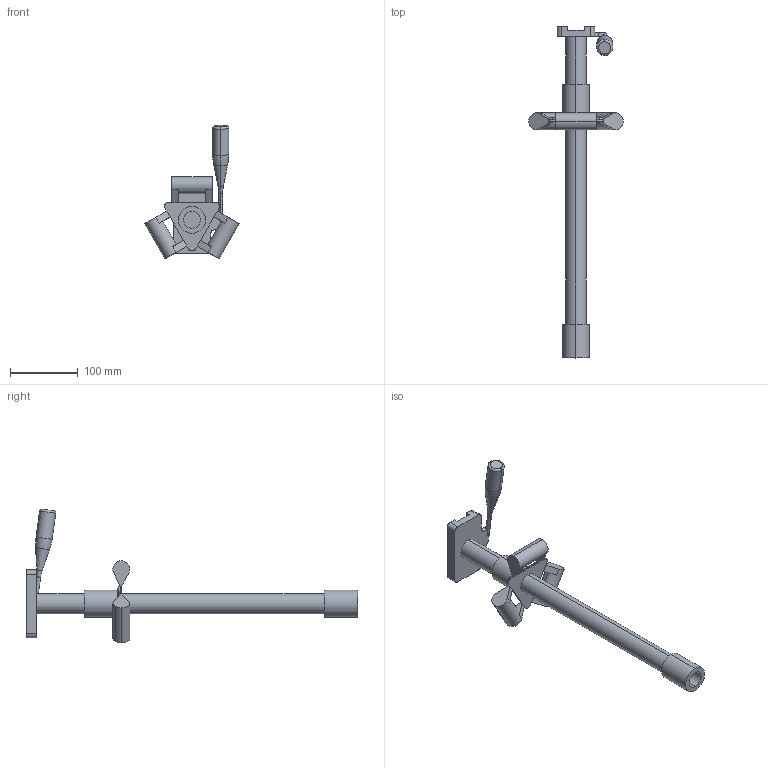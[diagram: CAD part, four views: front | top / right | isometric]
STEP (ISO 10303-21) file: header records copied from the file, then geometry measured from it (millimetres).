
FILE_DESCRIPTION (( 'STEP AP203' ), '1' );
FILE_NAME ('BODY.STEP', '2020-08-13T18:25:04', ( 'user' ), ( '' ), 'SwSTEP 2.0', 'SolidWorks 2018', '' );
FILE_SCHEMA (( 'CONFIG_CONTROL_DESIGN' ));
Length unit declared in the file: millimetre
Products named in the file (1): BODY
Bounding box: 139.95 x 491 x 197.64 mm (x, y, z)
Volume: 359457 mm3; surface area: 135546 mm2
Topology: 1 solids, 1 shells, 113 faces, 291 edges, 180 vertices
Faces by surface type: plane 62, cylinder 38, torus 11, cone 2
Entity records: 3511 total; most frequent: DIRECTION 624, CARTESIAN_POINT 598, ORIENTED_EDGE 582, EDGE_CURVE 291, AXIS2_PLACEMENT_3D 222, LINE 180, VECTOR 180, VERTEX_POINT 180
